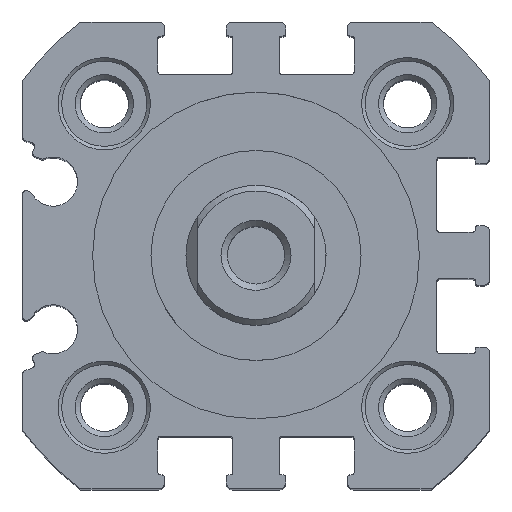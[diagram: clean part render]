
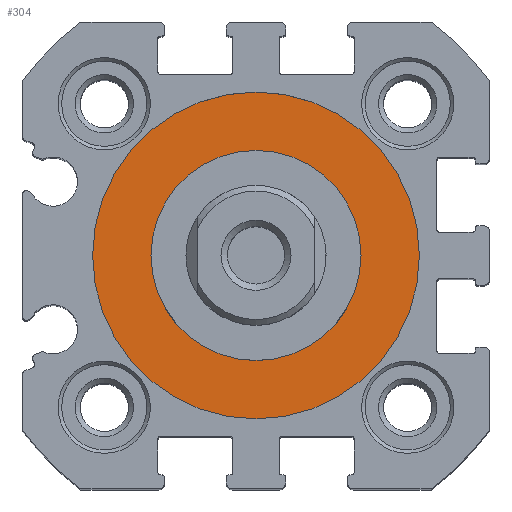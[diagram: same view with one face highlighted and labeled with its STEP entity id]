
A CAD part, top view. The second image highlights one B-rep face of the part: STEP entity #304.
In plain terms, the highlighted planar face has unit normal (0, 0, 1).
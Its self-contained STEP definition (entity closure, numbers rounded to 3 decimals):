
#304 = ADVANCED_FACE( '', ( #759, #760 ), #761, .T. );
#759 = FACE_BOUND( '', #1423, .T. );
#760 = FACE_OUTER_BOUND( '', #1424, .T. );
#761 = PLANE( '', #1425 );
#1423 = EDGE_LOOP( '', ( #2158 ) );
#1424 = EDGE_LOOP( '', ( #2159 ) );
#1425 = AXIS2_PLACEMENT_3D( '', #2160, #2161, #2162 );
#2158 = ORIENTED_EDGE( '', *, *, #3775, .F. );
#2159 = ORIENTED_EDGE( '', *, *, #3776, .T. );
#2160 = CARTESIAN_POINT( '', ( 0., 0., -1.5 ) );
#2161 = DIRECTION( '', ( 0., 0., 1. ) );
#2162 = DIRECTION( '', ( 1., 0., 0. ) );
#3775 = EDGE_CURVE( '', #4490, #4490, #4491, .T. );
#3776 = EDGE_CURVE( '', #4492, #4492, #4493, .T. );
#4490 = VERTEX_POINT( '', #5499 );
#4491 = CIRCLE( '', #5500, 9. );
#4492 = VERTEX_POINT( '', #5501 );
#4493 = CIRCLE( '', #5502, 14. );
#5499 = CARTESIAN_POINT( '', ( 9., 0., -1.5 ) );
#5500 = AXIS2_PLACEMENT_3D( '', #6674, #6675, #6676 );
#5501 = CARTESIAN_POINT( '', ( 14., 0., -1.5 ) );
#5502 = AXIS2_PLACEMENT_3D( '', #6677, #6678, #6679 );
#6674 = CARTESIAN_POINT( '', ( 0., 0., -1.5 ) );
#6675 = DIRECTION( '', ( 0., 0., 1. ) );
#6676 = DIRECTION( '', ( 1., 0., 0. ) );
#6677 = CARTESIAN_POINT( '', ( 0., 0., -1.5 ) );
#6678 = DIRECTION( '', ( 0., 0., 1. ) );
#6679 = DIRECTION( '', ( 1., 0., 0. ) );
